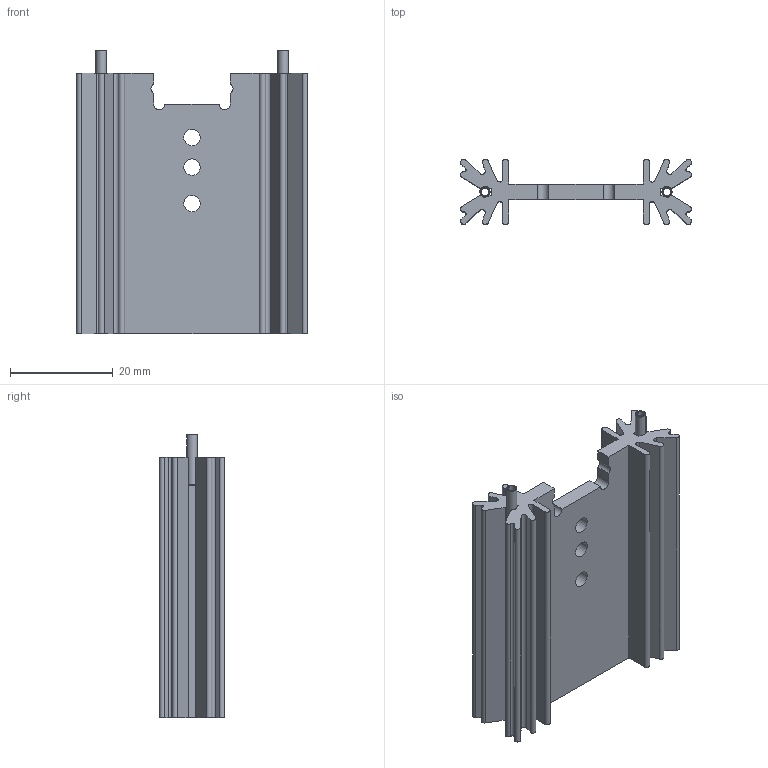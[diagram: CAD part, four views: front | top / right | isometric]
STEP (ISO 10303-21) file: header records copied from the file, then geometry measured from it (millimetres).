
FILE_DESCRIPTION((''),'2;1');
FILE_NAME('O:\Internetdaten\f.cool\Kapitel A\Strangkühlkörper für Leiterplattenmontage\STEP\SK_409_50.8_STS.stp','2013-11-15T13:29:09',('lochen'),(''),'Autodesk Inventor 2012','Autodesk Inventor 2012','');
FILE_SCHEMA(('AUTOMOTIVE_DESIGN { 1 0 10303 214 1 1 1 1 }'));
Length unit declared in the file: millimetre
Products named in the file (3): SK_409_50; 001020009; A9001B20100008S
Assembly tree (3 placements, depth 2):
  SK_409_50
    001020009
    A9001B20100008S  x2
Bounding box: 45 x 12.7 x 55.3 mm (x, y, z)
Volume: 10647.2 mm3; surface area: 10638.4 mm2
Topology: 3 solids, 3 shells, 207 faces, 603 edges, 402 vertices
Faces by surface type: plane 104, cylinder 99, torus 4
Full cylindrical faces by diameter (mm): 3.2 x3
Entity records: 5644 total; most frequent: CARTESIAN_POINT 1601, ORIENTED_EDGE 852, DIRECTION 824, EDGE_CURVE 426, AXIS2_PLACEMENT_3D 301, VERTEX_POINT 286, VECTOR 222, LINE 222
